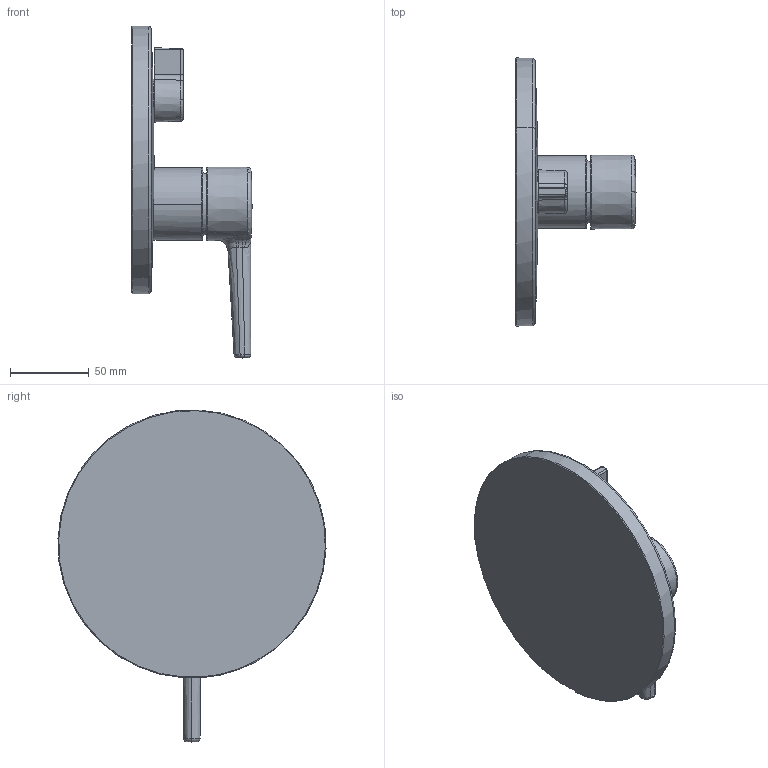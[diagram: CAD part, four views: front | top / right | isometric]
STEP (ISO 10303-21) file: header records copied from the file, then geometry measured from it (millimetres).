
FILE_DESCRIPTION((''),'2;1');
FILE_NAME('509302','2020-05-04T13:57:21',('DB991'),(''),'CREO PARAMETRIC BY PTC INC, 2018500','CREO PARAMETRIC BY PTC INC, 2018500','');
FILE_SCHEMA(('CONFIG_CONTROL_DESIGN'));
Length unit declared in the file: millimetre
Products named in the file (1): 509302
Bounding box: 76.1 x 169.87 x 210.37 mm (x, y, z)
Volume: 419135.1 mm3; surface area: 67124.6 mm2
Topology: 1 solids, 1 shells, 185 faces, 444 edges, 257 vertices
Faces by surface type: bspline 65, cylinder 48, torus 28, plane 22, cone 12, sphere 10
Entity records: 13551 total; most frequent: CARTESIAN_POINT 9879, ORIENTED_EDGE 866, DIRECTION 571, EDGE_CURVE 433, VERTEX_POINT 257, AXIS2_PLACEMENT_3D 240, B_SPLINE_CURVE_WITH_KNOTS 222, EDGE_LOOP 192
